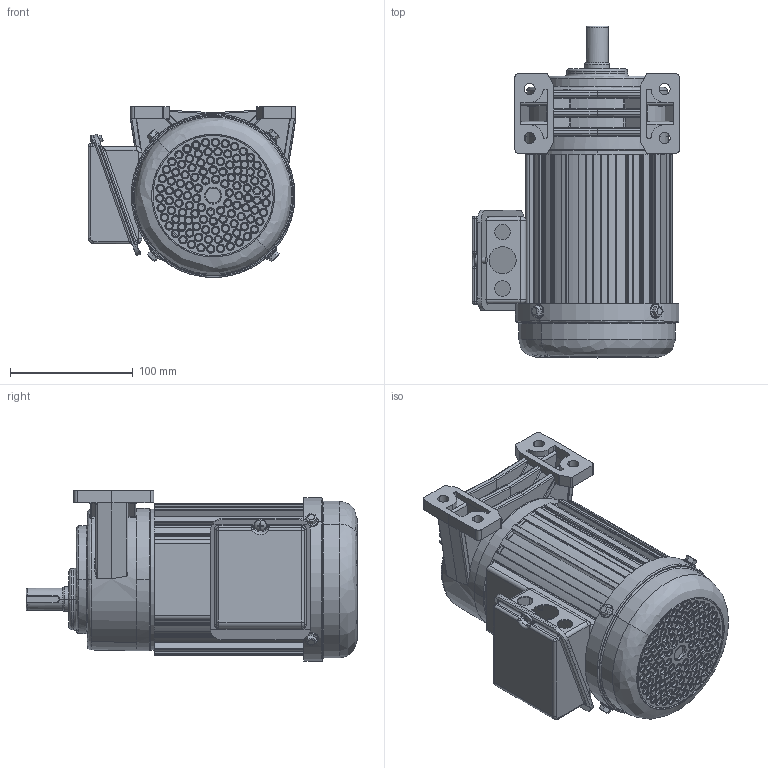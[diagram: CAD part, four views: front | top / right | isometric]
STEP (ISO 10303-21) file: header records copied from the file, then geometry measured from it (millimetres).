
FILE_DESCRIPTION (( 'STEP AP203' ), '1' );
FILE_NAME ('单相200W1#卧式.STEP', '2015-10-23T01:46:58', ( '微软中国' ), ( '微软用户' ), 'SwSTEP 2.0', 'SolidWorks 2009', '' );
FILE_SCHEMA (( 'CONFIG_CONTROL_DESIGN' ));
Products named in the file (11): Cross recessed pan head screws GB_GB_CROSS_SCREWS_TYPE1 M5X6-6  H type-N; 瑞欶盓殤; 100W綴裔; 等眈100W諉盄碟釱; 等眈100W諉盄碟裔; 等眈200W1#拏宒; 200W儂褲; 100W瑞欶; Hex Flange Bolts-Heavy Grade B GB_GB_FASTENER_BOLT_HFBB M5X10-N; 1#拏宒熬厒ん; 蚾饜极3
Assembly tree (16 placements, depth 3):
  等眈200W1#拏宒
    瑞欶盓殤  x4
    Hex Flange Bolts-Heavy Grade B GB_GB_FASTENER_BOLT_HFBB M5X10-N  x4
    蚾饜极3
      Cross recessed pan head screws GB_GB_CROSS_SCREWS_TYPE1 M5X6-6  H type-N
      等眈100W諉盄碟裔
      等眈100W諉盄碟釱
    200W儂褲
    100W瑞欶
    100W綴裔
    1#拏宒熬厒ん
Bounding box: 169.4 x 270.5 x 139.13 mm (x, y, z)
Volume: 871324.8 mm3; surface area: 390978 mm2
Topology: 15 solids, 16 shells, 1918 faces, 4990 edges, 3081 vertices
Faces by surface type: bspline 884, cylinder 580, plane 392, torus 32, cone 24, sphere 6
Entity records: 79228 total; most frequent: CARTESIAN_POINT 36658, ORIENTED_EDGE 9352, DIRECTION 7971, EDGE_CURVE 4676, AXIS2_PLACEMENT_3D 3225, VERTEX_POINT 2919, CIRCLE 2270, EDGE_LOOP 2103
